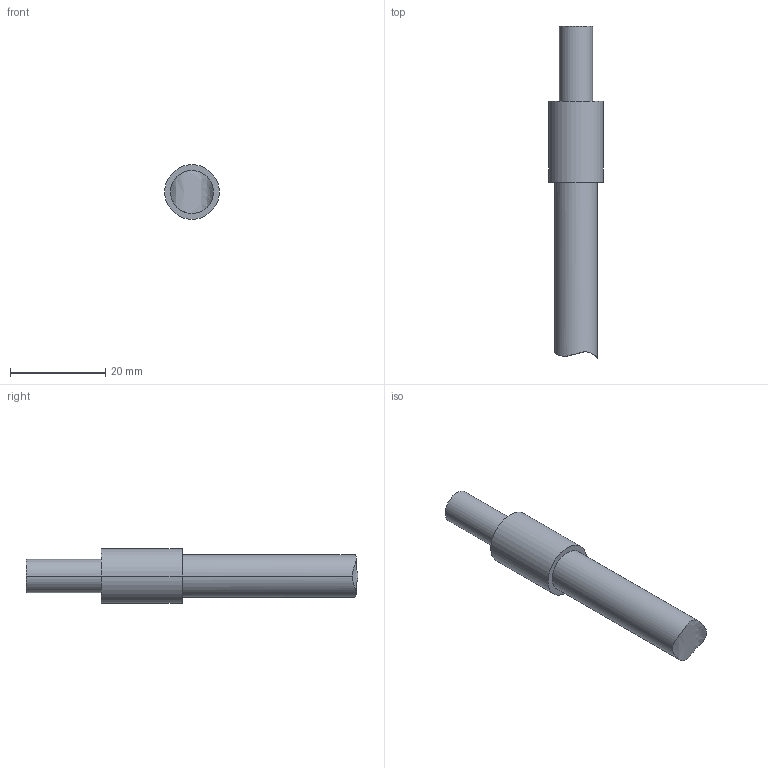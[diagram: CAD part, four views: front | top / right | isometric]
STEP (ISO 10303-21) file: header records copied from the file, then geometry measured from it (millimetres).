
FILE_DESCRIPTION((''),'2;1');
FILE_NAME('0000472807_PRT','2022-01-18T07:53:00',('pdmservice'),(''),'CREO PARAMETRIC BY PTC INC, 2018420','CREO PARAMETRIC BY PTC INC, 2018420','');
FILE_SCHEMA(('AUTOMOTIVE_DESIGN { 1 0 10303 214 1 1 1 1 }'));
Length unit declared in the file: millimetre
Products named in the file (1): 0000472807_PRT
Bounding box: 11.5 x 69.74 x 11.5 mm (x, y, z)
Volume: 4670.6 mm3; surface area: 2196.2 mm2
Topology: 1 solids, 1 shells, 19 faces, 36 edges, 24 vertices
Faces by surface type: cylinder 12, plane 6, extrusion 1
Entity records: 1529 total; most frequent: CARTESIAN_POINT 182, PROPERTY_DEFINITION 122, REPRESENTATION 121, PROPERTY_DEFINITION_REPRESENTATION 121, DESCRIPTIVE_REPRESENTATION_ITEM 109, GENERAL_PROPERTY 104, GENERAL_PROPERTY_ASSOCIATION 104, DIRECTION 93
